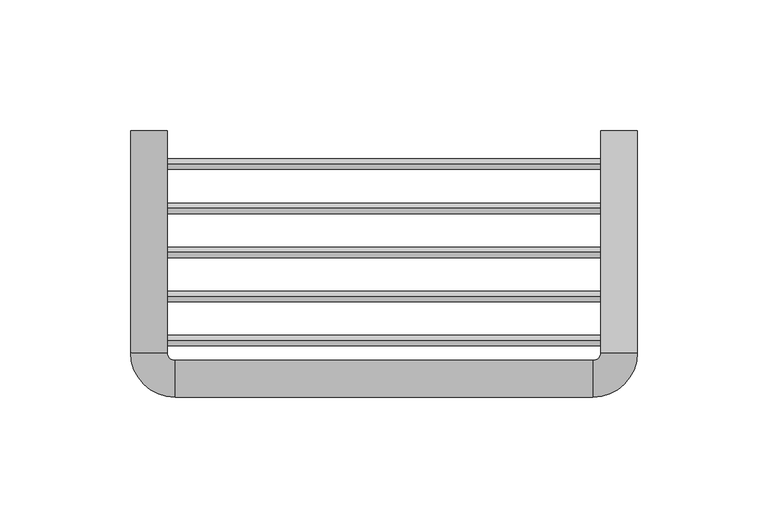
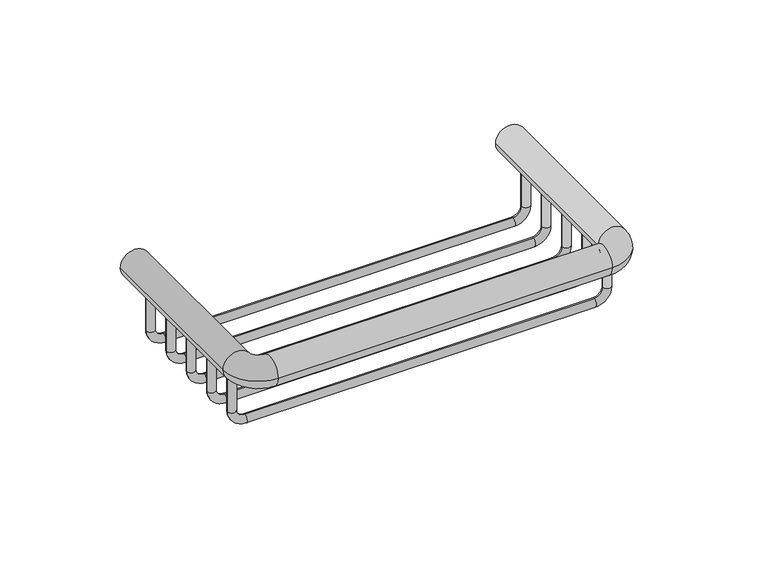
"""IFC4 building model written with IfcOpenShell, lengths in millimetres: flow terminal geometry, jabonera rejilla : jabonera rejilla."""

from ifc_helpers import new_model, si_unit, point, frame, origin, place, context, project, spatial, circle_curve, ellipse_curve, trimmed, source, transform, mapped, element, save
from ifc_brep_helpers import plane_surface, cylinder_surface, revolved_surface, advanced_brep


def flow_terminal_72b990a2(model_context):
    return source(origin(), model_context, "Body", "AdvancedBrep", [
        advanced_brep(
        [(-92.0, -80.3848902, -7.0), (-88.0, -80.3848902, -7.0), (-92.0, -80.3848902, -25.787739), (-88.0, -80.3848902, -25.787739), (-83.787739, -80.3848902, -30.0), (-83.787739, -80.3848902, -34.0), (83.787739, -80.3848902, -34.0), (83.787739, -80.3848902, -30.0), (88.0, -80.3848902, -25.787739), (92.0, -80.3848902, -25.787739), (92.0, -80.3848902, -7.0), (88.0, -80.3848902, -7.0)],
        [
            (0, 1, circle_curve(frame((-90.0, -80.3848902, -7.0), z_axis=(0.0, 0.0, 1.0), x_axis=(1.0, 0.0, 0.0)), 2.0)),
            (1, 0, circle_curve(frame((-90.0, -80.3848902, -7.0), z_axis=(0.0, 0.0, 1.0), x_axis=(1.0, 0.0, 0.0)), 2.0)),
            (0, 2),
            (2, 3, circle_curve(frame((-90.0, -80.3848902, -25.787739), z_axis=(0.0, 0.0, 1.0), x_axis=(1.0, 0.0, 0.0)), 2.0)),
            (3, 1),
            (3, 2, circle_curve(frame((-90.0, -80.3848902, -25.787739), z_axis=(0.0, 0.0, 1.0), x_axis=(1.0, 0.0, 0.0)), 2.0)),
            (4, 3, circle_curve(frame((-83.787739, -80.3848902, -25.787739), z_axis=(0.0, 1.0, 0.0), x_axis=(-1.0, 0.0, 0.0)), 4.212261)),
            (2, 5, circle_curve(frame((-83.787739, -80.3848902, -25.787739), z_axis=(0.0, -1.0, 0.0), x_axis=(-1.0, 0.0, 0.0)), 8.212261)),
            (5, 4, circle_curve(frame((-83.787739, -80.3848902, -32.0), z_axis=(-1.0, 0.0, 0.0), x_axis=(0.0, 0.0, 1.0)), 2.0)),
            (4, 5, circle_curve(frame((-83.787739, -80.3848902, -32.0), z_axis=(-1.0, 0.0, 0.0), x_axis=(0.0, 0.0, 1.0)), 2.0)),
            (5, 6),
            (6, 7, circle_curve(frame((83.787739, -80.3848902, -32.0), z_axis=(-1.0, 0.0, 0.0), x_axis=(0.0, 0.0, 1.0)), 2.0)),
            (7, 4),
            (7, 6, circle_curve(frame((83.787739, -80.3848902, -32.0), z_axis=(-1.0, 0.0, 0.0), x_axis=(0.0, 0.0, 1.0)), 2.0)),
            (8, 7, circle_curve(frame((83.787739, -80.3848902, -25.787739), z_axis=(0.0, 1.0, 0.0), x_axis=(0.0, 0.0, -1.0)), 4.212261)),
            (6, 9, circle_curve(frame((83.787739, -80.3848902, -25.787739), z_axis=(0.0, -1.0, 0.0), x_axis=(0.0, 0.0, -1.0)), 8.212261)),
            (9, 8, circle_curve(frame((90.0, -80.3848902, -25.787739), z_axis=(0.0, 0.0, -1.0), x_axis=(-1.0, 0.0, 0.0)), 2.0)),
            (8, 9, circle_curve(frame((90.0, -80.3848902, -25.787739), z_axis=(0.0, 0.0, -1.0), x_axis=(-1.0, 0.0, 0.0)), 2.0)),
            (10, 11, circle_curve(frame((90.0, -80.3848902, -7.0), z_axis=(0.0, 0.0, 1.0), x_axis=(-1.0, 0.0, 0.0)), 2.0)),
            (11, 10, circle_curve(frame((90.0, -80.3848902, -7.0), z_axis=(0.0, 0.0, 1.0), x_axis=(-1.0, 0.0, 0.0)), 2.0)),
            (9, 10),
            (11, 8),
        ],
        [
            plane_surface(frame((-90.0, -80.3848902, -7.0), z_axis=(0.0, 0.0, 1.0), x_axis=(0.0, -1.0, 0.0))),
            cylinder_surface(frame((-90.0, -80.3848902, -7.0), z_axis=(0.0, 0.0, 1.0), x_axis=(1.0, 0.0, 0.0)), 2.0),
            revolved_surface(trimmed(ellipse_curve(frame((-90.0, -80.3848902, -25.787739), z_axis=(0.0, 0.0, 1.0), x_axis=(1.0, 0.0, 0.0)), 2.0, 2.0), [point((-92.0, -80.3848902, -25.787739))], [point((-88.0, -80.3848902, -25.787739))], True, "CARTESIAN"), (-83.787739, -80.3848902, -25.787739), (0.0, -1.0, 0.0)),
            revolved_surface(trimmed(ellipse_curve(frame((-90.0, -80.3848902, -25.787739), z_axis=(0.0, 0.0, 1.0), x_axis=(1.0, 0.0, 0.0)), 2.0, 2.0), [point((-88.0, -80.3848902, -25.787739))], [point((-92.0, -80.3848902, -25.787739))], True, "CARTESIAN"), (-83.787739, -80.3848902, -25.787739), (0.0, -1.0, 0.0)),
            cylinder_surface(frame((-83.787739, -80.3848902, -32.0), z_axis=(-1.0, 0.0, 0.0), x_axis=(0.0, 0.0, 1.0)), 2.0),
            revolved_surface(trimmed(ellipse_curve(frame((83.787739, -80.3848902, -32.0), z_axis=(-1.0, 0.0, 0.0), x_axis=(0.0, 0.0, 1.0)), 2.0, 2.0), [point((83.787739, -80.3848902, -34.0))], [point((83.787739, -80.3848902, -30.0))], True, "CARTESIAN"), (83.787739, -80.3848902, -25.787739), (0.0, -1.0, 0.0)),
            revolved_surface(trimmed(ellipse_curve(frame((83.787739, -80.3848902, -32.0), z_axis=(-1.0, 0.0, 0.0), x_axis=(0.0, 0.0, 1.0)), 2.0, 2.0), [point((83.787739, -80.3848902, -30.0))], [point((83.787739, -80.3848902, -34.0))], True, "CARTESIAN"), (83.787739, -80.3848902, -25.787739), (0.0, -1.0, 0.0)),
            plane_surface(frame((90.0, -80.3848902, -7.0), z_axis=(0.0, 0.0, 1.0), x_axis=(0.0, -1.0, 0.0))),
            cylinder_surface(frame((90.0, -80.3848902, -25.787739), z_axis=(0.0, 0.0, -1.0), x_axis=(-1.0, 0.0, 0.0)), 2.0),
        ],
        [
            (0, [[1, 2]]),
            (1, [[-1, 3, 4, 5]]),
            (1, [[-2, -5, 6, -3]]),
            (2, [[7, -4, 8, 9]]),
            (3, [[-8, -6, -7, 10]]),
            (4, [[-9, 11, 12, 13]]),
            (4, [[-10, -13, 14, -11]]),
            (5, [[15, -12, 16, 17]]),
            (6, [[-16, -14, -15, 18]]),
            (7, [[19, 20]]),
            (8, [[-17, 21, -20, 22]]),
            (8, [[-18, -22, -19, -21]]),
        ],
    ),
        advanced_brep(
        [(-92.0, -63.5030123, -7.0), (-88.0, -63.5030123, -7.0), (-92.0, -63.5030123, -25.787739), (-88.0, -63.5030123, -25.787739), (-83.787739, -63.5030123, -30.0), (-83.787739, -63.5030123, -34.0), (83.787739, -63.5030123, -34.0), (83.787739, -63.5030123, -30.0), (88.0, -63.5030123, -25.787739), (92.0, -63.5030123, -25.787739), (92.0, -63.5030123, -7.0), (88.0, -63.5030123, -7.0)],
        [
            (0, 1, circle_curve(frame((-90.0, -63.5030123, -7.0), z_axis=(0.0, 0.0, 1.0), x_axis=(1.0, 0.0, 0.0)), 2.0)),
            (1, 0, circle_curve(frame((-90.0, -63.5030123, -7.0), z_axis=(0.0, 0.0, 1.0), x_axis=(1.0, 0.0, 0.0)), 2.0)),
            (0, 2),
            (2, 3, circle_curve(frame((-90.0, -63.5030123, -25.787739), z_axis=(0.0, 0.0, 1.0), x_axis=(1.0, 0.0, 0.0)), 2.0)),
            (3, 1),
            (3, 2, circle_curve(frame((-90.0, -63.5030123, -25.787739), z_axis=(0.0, 0.0, 1.0), x_axis=(1.0, 0.0, 0.0)), 2.0)),
            (4, 3, circle_curve(frame((-83.787739, -63.5030123, -25.787739), z_axis=(0.0, 1.0, 0.0), x_axis=(-1.0, 0.0, 0.0)), 4.212261)),
            (2, 5, circle_curve(frame((-83.787739, -63.5030123, -25.787739), z_axis=(0.0, -1.0, 0.0), x_axis=(-1.0, 0.0, 0.0)), 8.212261)),
            (5, 4, circle_curve(frame((-83.787739, -63.5030123, -32.0), z_axis=(-1.0, 0.0, 0.0), x_axis=(0.0, 0.0, 1.0)), 2.0)),
            (4, 5, circle_curve(frame((-83.787739, -63.5030123, -32.0), z_axis=(-1.0, 0.0, 0.0), x_axis=(0.0, 0.0, 1.0)), 2.0)),
            (5, 6),
            (6, 7, circle_curve(frame((83.787739, -63.5030123, -32.0), z_axis=(-1.0, 0.0, 0.0), x_axis=(0.0, 0.0, 1.0)), 2.0)),
            (7, 4),
            (7, 6, circle_curve(frame((83.787739, -63.5030123, -32.0), z_axis=(-1.0, 0.0, 0.0), x_axis=(0.0, 0.0, 1.0)), 2.0)),
            (8, 7, circle_curve(frame((83.787739, -63.5030123, -25.787739), z_axis=(0.0, 1.0, 0.0), x_axis=(0.0, 0.0, -1.0)), 4.212261)),
            (6, 9, circle_curve(frame((83.787739, -63.5030123, -25.787739), z_axis=(0.0, -1.0, 0.0), x_axis=(0.0, 0.0, -1.0)), 8.212261)),
            (9, 8, circle_curve(frame((90.0, -63.5030123, -25.787739), z_axis=(0.0, 0.0, -1.0), x_axis=(-1.0, 0.0, 0.0)), 2.0)),
            (8, 9, circle_curve(frame((90.0, -63.5030123, -25.787739), z_axis=(0.0, 0.0, -1.0), x_axis=(-1.0, 0.0, 0.0)), 2.0)),
            (10, 11, circle_curve(frame((90.0, -63.5030123, -7.0), z_axis=(0.0, 0.0, 1.0), x_axis=(-1.0, 0.0, 0.0)), 2.0)),
            (11, 10, circle_curve(frame((90.0, -63.5030123, -7.0), z_axis=(0.0, 0.0, 1.0), x_axis=(-1.0, 0.0, 0.0)), 2.0)),
            (9, 10),
            (11, 8),
        ],
        [
            plane_surface(frame((-90.0, -63.5030123, -7.0), z_axis=(0.0, 0.0, 1.0), x_axis=(0.0, -1.0, 0.0))),
            cylinder_surface(frame((-90.0, -63.5030123, -7.0), z_axis=(0.0, 0.0, 1.0), x_axis=(1.0, 0.0, 0.0)), 2.0),
            revolved_surface(trimmed(ellipse_curve(frame((-90.0, -63.5030123, -25.787739), z_axis=(0.0, 0.0, 1.0), x_axis=(1.0, 0.0, 0.0)), 2.0, 2.0), [point((-92.0, -63.5030123, -25.787739))], [point((-88.0, -63.5030123, -25.787739))], True, "CARTESIAN"), (-83.787739, -63.5030123, -25.787739), (0.0, -1.0, 0.0)),
            revolved_surface(trimmed(ellipse_curve(frame((-90.0, -63.5030123, -25.787739), z_axis=(0.0, 0.0, 1.0), x_axis=(1.0, 0.0, 0.0)), 2.0, 2.0), [point((-88.0, -63.5030123, -25.787739))], [point((-92.0, -63.5030123, -25.787739))], True, "CARTESIAN"), (-83.787739, -63.5030123, -25.787739), (0.0, -1.0, 0.0)),
            cylinder_surface(frame((-83.787739, -63.5030123, -32.0), z_axis=(-1.0, 0.0, 0.0), x_axis=(0.0, 0.0, 1.0)), 2.0),
            revolved_surface(trimmed(ellipse_curve(frame((83.787739, -63.5030123, -32.0), z_axis=(-1.0, 0.0, 0.0), x_axis=(0.0, 0.0, 1.0)), 2.0, 2.0), [point((83.787739, -63.5030123, -34.0))], [point((83.787739, -63.5030123, -30.0))], True, "CARTESIAN"), (83.787739, -63.5030123, -25.787739), (0.0, -1.0, 0.0)),
            revolved_surface(trimmed(ellipse_curve(frame((83.787739, -63.5030123, -32.0), z_axis=(-1.0, 0.0, 0.0), x_axis=(0.0, 0.0, 1.0)), 2.0, 2.0), [point((83.787739, -63.5030123, -30.0))], [point((83.787739, -63.5030123, -34.0))], True, "CARTESIAN"), (83.787739, -63.5030123, -25.787739), (0.0, -1.0, 0.0)),
            plane_surface(frame((90.0, -63.5030123, -7.0), z_axis=(0.0, 0.0, 1.0), x_axis=(0.0, -1.0, 0.0))),
            cylinder_surface(frame((90.0, -63.5030123, -25.787739), z_axis=(0.0, 0.0, -1.0), x_axis=(-1.0, 0.0, 0.0)), 2.0),
        ],
        [
            (0, [[1, 2]]),
            (1, [[-1, 3, 4, 5]]),
            (1, [[-2, -5, 6, -3]]),
            (2, [[7, -4, 8, 9]]),
            (3, [[-8, -6, -7, 10]]),
            (4, [[-9, 11, 12, 13]]),
            (4, [[-10, -13, 14, -11]]),
            (5, [[15, -12, 16, 17]]),
            (6, [[-16, -14, -15, 18]]),
            (7, [[19, 20]]),
            (8, [[-17, 21, -20, 22]]),
            (8, [[-18, -22, -19, -21]]),
        ],
    ),
        advanced_brep(
        [(-92.0, -46.6211345, -7.0), (-88.0, -46.6211345, -7.0), (-92.0, -46.6211345, -25.787739), (-88.0, -46.6211345, -25.787739), (-83.787739, -46.6211345, -30.0), (-83.787739, -46.6211345, -34.0), (83.787739, -46.6211345, -34.0), (83.787739, -46.6211345, -30.0), (88.0, -46.6211345, -25.787739), (92.0, -46.6211345, -25.787739), (92.0, -46.6211345, -7.0), (88.0, -46.6211345, -7.0)],
        [
            (0, 1, circle_curve(frame((-90.0, -46.6211345, -7.0), z_axis=(0.0, 0.0, 1.0), x_axis=(1.0, 0.0, 0.0)), 2.0)),
            (1, 0, circle_curve(frame((-90.0, -46.6211345, -7.0), z_axis=(0.0, 0.0, 1.0), x_axis=(1.0, 0.0, 0.0)), 2.0)),
            (0, 2),
            (2, 3, circle_curve(frame((-90.0, -46.6211345, -25.787739), z_axis=(0.0, 0.0, 1.0), x_axis=(1.0, 0.0, 0.0)), 2.0)),
            (3, 1),
            (3, 2, circle_curve(frame((-90.0, -46.6211345, -25.787739), z_axis=(0.0, 0.0, 1.0), x_axis=(1.0, 0.0, 0.0)), 2.0)),
            (4, 3, circle_curve(frame((-83.787739, -46.6211345, -25.787739), z_axis=(0.0, 1.0, 0.0), x_axis=(-1.0, 0.0, 0.0)), 4.212261)),
            (2, 5, circle_curve(frame((-83.787739, -46.6211345, -25.787739), z_axis=(0.0, -1.0, 0.0), x_axis=(-1.0, 0.0, 0.0)), 8.212261)),
            (5, 4, circle_curve(frame((-83.787739, -46.6211345, -32.0), z_axis=(-1.0, 0.0, 0.0), x_axis=(0.0, 0.0, 1.0)), 2.0)),
            (4, 5, circle_curve(frame((-83.787739, -46.6211345, -32.0), z_axis=(-1.0, 0.0, 0.0), x_axis=(0.0, 0.0, 1.0)), 2.0)),
            (5, 6),
            (6, 7, circle_curve(frame((83.787739, -46.6211345, -32.0), z_axis=(-1.0, 0.0, 0.0), x_axis=(0.0, 0.0, 1.0)), 2.0)),
            (7, 4),
            (7, 6, circle_curve(frame((83.787739, -46.6211345, -32.0), z_axis=(-1.0, 0.0, 0.0), x_axis=(0.0, 0.0, 1.0)), 2.0)),
            (8, 7, circle_curve(frame((83.787739, -46.6211345, -25.787739), z_axis=(0.0, 1.0, 0.0), x_axis=(0.0, 0.0, -1.0)), 4.212261)),
            (6, 9, circle_curve(frame((83.787739, -46.6211345, -25.787739), z_axis=(0.0, -1.0, 0.0), x_axis=(0.0, 0.0, -1.0)), 8.212261)),
            (9, 8, circle_curve(frame((90.0, -46.6211345, -25.787739), z_axis=(0.0, 0.0, -1.0), x_axis=(-1.0, 0.0, 0.0)), 2.0)),
            (8, 9, circle_curve(frame((90.0, -46.6211345, -25.787739), z_axis=(0.0, 0.0, -1.0), x_axis=(-1.0, 0.0, 0.0)), 2.0)),
            (10, 11, circle_curve(frame((90.0, -46.6211345, -7.0), z_axis=(0.0, 0.0, 1.0), x_axis=(-1.0, 0.0, 0.0)), 2.0)),
            (11, 10, circle_curve(frame((90.0, -46.6211345, -7.0), z_axis=(0.0, 0.0, 1.0), x_axis=(-1.0, 0.0, 0.0)), 2.0)),
            (9, 10),
            (11, 8),
        ],
        [
            plane_surface(frame((-90.0, -46.6211345, -7.0), z_axis=(0.0, 0.0, 1.0), x_axis=(0.0, -1.0, 0.0))),
            cylinder_surface(frame((-90.0, -46.6211345, -7.0), z_axis=(0.0, 0.0, 1.0), x_axis=(1.0, 0.0, 0.0)), 2.0),
            revolved_surface(trimmed(ellipse_curve(frame((-90.0, -46.6211345, -25.787739), z_axis=(0.0, 0.0, 1.0), x_axis=(1.0, 0.0, 0.0)), 2.0, 2.0), [point((-92.0, -46.6211345, -25.787739))], [point((-88.0, -46.6211345, -25.787739))], True, "CARTESIAN"), (-83.787739, -46.6211345, -25.787739), (0.0, -1.0, 0.0)),
            revolved_surface(trimmed(ellipse_curve(frame((-90.0, -46.6211345, -25.787739), z_axis=(0.0, 0.0, 1.0), x_axis=(1.0, 0.0, 0.0)), 2.0, 2.0), [point((-88.0, -46.6211345, -25.787739))], [point((-92.0, -46.6211345, -25.787739))], True, "CARTESIAN"), (-83.787739, -46.6211345, -25.787739), (0.0, -1.0, 0.0)),
            cylinder_surface(frame((-83.787739, -46.6211345, -32.0), z_axis=(-1.0, 0.0, 0.0), x_axis=(0.0, 0.0, 1.0)), 2.0),
            revolved_surface(trimmed(ellipse_curve(frame((83.787739, -46.6211345, -32.0), z_axis=(-1.0, 0.0, 0.0), x_axis=(0.0, 0.0, 1.0)), 2.0, 2.0), [point((83.787739, -46.6211345, -34.0))], [point((83.787739, -46.6211345, -30.0))], True, "CARTESIAN"), (83.787739, -46.6211345, -25.787739), (0.0, -1.0, 0.0)),
            revolved_surface(trimmed(ellipse_curve(frame((83.787739, -46.6211345, -32.0), z_axis=(-1.0, 0.0, 0.0), x_axis=(0.0, 0.0, 1.0)), 2.0, 2.0), [point((83.787739, -46.6211345, -30.0))], [point((83.787739, -46.6211345, -34.0))], True, "CARTESIAN"), (83.787739, -46.6211345, -25.787739), (0.0, -1.0, 0.0)),
            plane_surface(frame((90.0, -46.6211345, -7.0), z_axis=(0.0, 0.0, 1.0), x_axis=(0.0, -1.0, 0.0))),
            cylinder_surface(frame((90.0, -46.6211345, -25.787739), z_axis=(0.0, 0.0, -1.0), x_axis=(-1.0, 0.0, 0.0)), 2.0),
        ],
        [
            (0, [[1, 2]]),
            (1, [[-1, 3, 4, 5]]),
            (1, [[-2, -5, 6, -3]]),
            (2, [[7, -4, 8, 9]]),
            (3, [[-8, -6, -7, 10]]),
            (4, [[-9, 11, 12, 13]]),
            (4, [[-10, -13, 14, -11]]),
            (5, [[15, -12, 16, 17]]),
            (6, [[-16, -14, -15, 18]]),
            (7, [[19, 20]]),
            (8, [[-17, 21, -20, 22]]),
            (8, [[-18, -22, -19, -21]]),
        ],
    ),
        advanced_brep(
        [(-92.0, -29.7392566, -7.0), (-88.0, -29.7392566, -7.0), (-92.0, -29.7392566, -25.787739), (-88.0, -29.7392566, -25.787739), (-83.787739, -29.7392566, -30.0), (-83.787739, -29.7392566, -34.0), (83.787739, -29.7392566, -34.0), (83.787739, -29.7392566, -30.0), (88.0, -29.7392566, -25.787739), (92.0, -29.7392566, -25.787739), (92.0, -29.7392566, -7.0), (88.0, -29.7392566, -7.0)],
        [
            (0, 1, circle_curve(frame((-90.0, -29.7392566, -7.0), z_axis=(0.0, 0.0, 1.0), x_axis=(1.0, 0.0, 0.0)), 2.0)),
            (1, 0, circle_curve(frame((-90.0, -29.7392566, -7.0), z_axis=(0.0, 0.0, 1.0), x_axis=(1.0, 0.0, 0.0)), 2.0)),
            (0, 2),
            (2, 3, circle_curve(frame((-90.0, -29.7392566, -25.787739), z_axis=(0.0, 0.0, 1.0), x_axis=(1.0, 0.0, 0.0)), 2.0)),
            (3, 1),
            (3, 2, circle_curve(frame((-90.0, -29.7392566, -25.787739), z_axis=(0.0, 0.0, 1.0), x_axis=(1.0, 0.0, 0.0)), 2.0)),
            (4, 3, circle_curve(frame((-83.787739, -29.7392566, -25.787739), z_axis=(0.0, 1.0, 0.0), x_axis=(-1.0, 0.0, 0.0)), 4.212261)),
            (2, 5, circle_curve(frame((-83.787739, -29.7392566, -25.787739), z_axis=(0.0, -1.0, 0.0), x_axis=(-1.0, 0.0, 0.0)), 8.212261)),
            (5, 4, circle_curve(frame((-83.787739, -29.7392566, -32.0), z_axis=(-1.0, 0.0, 0.0), x_axis=(0.0, 0.0, 1.0)), 2.0)),
            (4, 5, circle_curve(frame((-83.787739, -29.7392566, -32.0), z_axis=(-1.0, 0.0, 0.0), x_axis=(0.0, 0.0, 1.0)), 2.0)),
            (5, 6),
            (6, 7, circle_curve(frame((83.787739, -29.7392566, -32.0), z_axis=(-1.0, 0.0, 0.0), x_axis=(0.0, 0.0, 1.0)), 2.0)),
            (7, 4),
            (7, 6, circle_curve(frame((83.787739, -29.7392566, -32.0), z_axis=(-1.0, 0.0, 0.0), x_axis=(0.0, 0.0, 1.0)), 2.0)),
            (8, 7, circle_curve(frame((83.787739, -29.7392566, -25.787739), z_axis=(0.0, 1.0, 0.0), x_axis=(0.0, 0.0, -1.0)), 4.212261)),
            (6, 9, circle_curve(frame((83.787739, -29.7392566, -25.787739), z_axis=(0.0, -1.0, 0.0), x_axis=(0.0, 0.0, -1.0)), 8.212261)),
            (9, 8, circle_curve(frame((90.0, -29.7392566, -25.787739), z_axis=(0.0, 0.0, -1.0), x_axis=(-1.0, 0.0, 0.0)), 2.0)),
            (8, 9, circle_curve(frame((90.0, -29.7392566, -25.787739), z_axis=(0.0, 0.0, -1.0), x_axis=(-1.0, 0.0, 0.0)), 2.0)),
            (10, 11, circle_curve(frame((90.0, -29.7392566, -7.0), z_axis=(0.0, 0.0, 1.0), x_axis=(-1.0, 0.0, 0.0)), 2.0)),
            (11, 10, circle_curve(frame((90.0, -29.7392566, -7.0), z_axis=(0.0, 0.0, 1.0), x_axis=(-1.0, 0.0, 0.0)), 2.0)),
            (9, 10),
            (11, 8),
        ],
        [
            plane_surface(frame((-90.0, -29.7392566, -7.0), z_axis=(0.0, 0.0, 1.0), x_axis=(0.0, -1.0, 0.0))),
            cylinder_surface(frame((-90.0, -29.7392566, -7.0), z_axis=(0.0, 0.0, 1.0), x_axis=(1.0, 0.0, 0.0)), 2.0),
            revolved_surface(trimmed(ellipse_curve(frame((-90.0, -29.7392566, -25.787739), z_axis=(0.0, 0.0, 1.0), x_axis=(1.0, 0.0, 0.0)), 2.0, 2.0), [point((-92.0, -29.7392566, -25.787739))], [point((-88.0, -29.7392566, -25.787739))], True, "CARTESIAN"), (-83.787739, -29.7392566, -25.787739), (0.0, -1.0, 0.0)),
            revolved_surface(trimmed(ellipse_curve(frame((-90.0, -29.7392566, -25.787739), z_axis=(0.0, 0.0, 1.0), x_axis=(1.0, 0.0, 0.0)), 2.0, 2.0), [point((-88.0, -29.7392566, -25.787739))], [point((-92.0, -29.7392566, -25.787739))], True, "CARTESIAN"), (-83.787739, -29.7392566, -25.787739), (0.0, -1.0, 0.0)),
            cylinder_surface(frame((-83.787739, -29.7392566, -32.0), z_axis=(-1.0, 0.0, 0.0), x_axis=(0.0, 0.0, 1.0)), 2.0),
            revolved_surface(trimmed(ellipse_curve(frame((83.787739, -29.7392566, -32.0), z_axis=(-1.0, 0.0, 0.0), x_axis=(0.0, 0.0, 1.0)), 2.0, 2.0), [point((83.787739, -29.7392566, -34.0))], [point((83.787739, -29.7392566, -30.0))], True, "CARTESIAN"), (83.787739, -29.7392566, -25.787739), (0.0, -1.0, 0.0)),
            revolved_surface(trimmed(ellipse_curve(frame((83.787739, -29.7392566, -32.0), z_axis=(-1.0, 0.0, 0.0), x_axis=(0.0, 0.0, 1.0)), 2.0, 2.0), [point((83.787739, -29.7392566, -30.0))], [point((83.787739, -29.7392566, -34.0))], True, "CARTESIAN"), (83.787739, -29.7392566, -25.787739), (0.0, -1.0, 0.0)),
            plane_surface(frame((90.0, -29.7392566, -7.0), z_axis=(0.0, 0.0, 1.0), x_axis=(0.0, -1.0, 0.0))),
            cylinder_surface(frame((90.0, -29.7392566, -25.787739), z_axis=(0.0, 0.0, -1.0), x_axis=(-1.0, 0.0, 0.0)), 2.0),
        ],
        [
            (0, [[1, 2]]),
            (1, [[-1, 3, 4, 5]]),
            (1, [[-2, -5, 6, -3]]),
            (2, [[7, -4, 8, 9]]),
            (3, [[-8, -6, -7, 10]]),
            (4, [[-9, 11, 12, 13]]),
            (4, [[-10, -13, 14, -11]]),
            (5, [[15, -12, 16, 17]]),
            (6, [[-16, -14, -15, 18]]),
            (7, [[19, 20]]),
            (8, [[-17, 21, -20, 22]]),
            (8, [[-18, -22, -19, -21]]),
        ],
    ),
        advanced_brep(
        [(-92.0, -12.8573787, -7.0), (-88.0, -12.8573787, -7.0), (-92.0, -12.8573787, -25.787739), (-88.0, -12.8573787, -25.787739), (-83.787739, -12.8573787, -30.0), (-83.787739, -12.8573787, -34.0), (83.787739, -12.8573787, -34.0), (83.787739, -12.8573787, -30.0), (88.0, -12.8573787, -25.787739), (92.0, -12.8573787, -25.787739), (92.0, -12.8573787, -7.0), (88.0, -12.8573787, -7.0)],
        [
            (0, 1, circle_curve(frame((-90.0, -12.8573787, -7.0), z_axis=(0.0, 0.0, 1.0), x_axis=(1.0, 0.0, 0.0)), 2.0)),
            (1, 0, circle_curve(frame((-90.0, -12.8573787, -7.0), z_axis=(0.0, 0.0, 1.0), x_axis=(1.0, 0.0, 0.0)), 2.0)),
            (0, 2),
            (2, 3, circle_curve(frame((-90.0, -12.8573787, -25.787739), z_axis=(0.0, 0.0, 1.0), x_axis=(1.0, 0.0, 0.0)), 2.0)),
            (3, 1),
            (3, 2, circle_curve(frame((-90.0, -12.8573787, -25.787739), z_axis=(0.0, 0.0, 1.0), x_axis=(1.0, 0.0, 0.0)), 2.0)),
            (4, 3, circle_curve(frame((-83.787739, -12.8573787, -25.787739), z_axis=(0.0, 1.0, 0.0), x_axis=(-1.0, 0.0, 0.0)), 4.212261)),
            (2, 5, circle_curve(frame((-83.787739, -12.8573787, -25.787739), z_axis=(0.0, -1.0, 0.0), x_axis=(-1.0, 0.0, 0.0)), 8.212261)),
            (5, 4, circle_curve(frame((-83.787739, -12.8573787, -32.0), z_axis=(-1.0, 0.0, 0.0), x_axis=(0.0, 0.0, 1.0)), 2.0)),
            (4, 5, circle_curve(frame((-83.787739, -12.8573787, -32.0), z_axis=(-1.0, 0.0, 0.0), x_axis=(0.0, 0.0, 1.0)), 2.0)),
            (5, 6),
            (6, 7, circle_curve(frame((83.787739, -12.8573787, -32.0), z_axis=(-1.0, 0.0, 0.0), x_axis=(0.0, 0.0, 1.0)), 2.0)),
            (7, 4),
            (7, 6, circle_curve(frame((83.787739, -12.8573787, -32.0), z_axis=(-1.0, 0.0, 0.0), x_axis=(0.0, 0.0, 1.0)), 2.0)),
            (8, 7, circle_curve(frame((83.787739, -12.8573787, -25.787739), z_axis=(0.0, 1.0, 0.0), x_axis=(0.0, 0.0, -1.0)), 4.212261)),
            (6, 9, circle_curve(frame((83.787739, -12.8573787, -25.787739), z_axis=(0.0, -1.0, 0.0), x_axis=(0.0, 0.0, -1.0)), 8.212261)),
            (9, 8, circle_curve(frame((90.0, -12.8573787, -25.787739), z_axis=(0.0, 0.0, -1.0), x_axis=(-1.0, 0.0, 0.0)), 2.0)),
            (8, 9, circle_curve(frame((90.0, -12.8573787, -25.787739), z_axis=(0.0, 0.0, -1.0), x_axis=(-1.0, 0.0, 0.0)), 2.0)),
            (10, 11, circle_curve(frame((90.0, -12.8573787, -7.0), z_axis=(0.0, 0.0, 1.0), x_axis=(-1.0, 0.0, 0.0)), 2.0)),
            (11, 10, circle_curve(frame((90.0, -12.8573787, -7.0), z_axis=(0.0, 0.0, 1.0), x_axis=(-1.0, 0.0, 0.0)), 2.0)),
            (9, 10),
            (11, 8),
        ],
        [
            plane_surface(frame((-90.0, -12.8573787, -7.0), z_axis=(0.0, 0.0, 1.0), x_axis=(0.0, -1.0, 0.0))),
            cylinder_surface(frame((-90.0, -12.8573787, -7.0), z_axis=(0.0, 0.0, 1.0), x_axis=(1.0, 0.0, 0.0)), 2.0),
            revolved_surface(trimmed(ellipse_curve(frame((-90.0, -12.8573787, -25.787739), z_axis=(0.0, 0.0, 1.0), x_axis=(1.0, 0.0, 0.0)), 2.0, 2.0), [point((-92.0, -12.8573787, -25.787739))], [point((-88.0, -12.8573787, -25.787739))], True, "CARTESIAN"), (-83.787739, -12.8573787, -25.787739), (0.0, -1.0, 0.0)),
            revolved_surface(trimmed(ellipse_curve(frame((-90.0, -12.8573787, -25.787739), z_axis=(0.0, 0.0, 1.0), x_axis=(1.0, 0.0, 0.0)), 2.0, 2.0), [point((-88.0, -12.8573787, -25.787739))], [point((-92.0, -12.8573787, -25.787739))], True, "CARTESIAN"), (-83.787739, -12.8573787, -25.787739), (0.0, -1.0, 0.0)),
            cylinder_surface(frame((-83.787739, -12.8573787, -32.0), z_axis=(-1.0, 0.0, 0.0), x_axis=(0.0, 0.0, 1.0)), 2.0),
            revolved_surface(trimmed(ellipse_curve(frame((83.787739, -12.8573787, -32.0), z_axis=(-1.0, 0.0, 0.0), x_axis=(0.0, 0.0, 1.0)), 2.0, 2.0), [point((83.787739, -12.8573787, -34.0))], [point((83.787739, -12.8573787, -30.0))], True, "CARTESIAN"), (83.787739, -12.8573787, -25.787739), (0.0, -1.0, 0.0)),
            revolved_surface(trimmed(ellipse_curve(frame((83.787739, -12.8573787, -32.0), z_axis=(-1.0, 0.0, 0.0), x_axis=(0.0, 0.0, 1.0)), 2.0, 2.0), [point((83.787739, -12.8573787, -30.0))], [point((83.787739, -12.8573787, -34.0))], True, "CARTESIAN"), (83.787739, -12.8573787, -25.787739), (0.0, -1.0, 0.0)),
            plane_surface(frame((90.0, -12.8573787, -7.0), z_axis=(0.0, 0.0, 1.0), x_axis=(0.0, -1.0, 0.0))),
            cylinder_surface(frame((90.0, -12.8573787, -25.787739), z_axis=(0.0, 0.0, -1.0), x_axis=(-1.0, 0.0, 0.0)), 2.0),
        ],
        [
            (0, [[1, 2]]),
            (1, [[-1, 3, 4, 5]]),
            (1, [[-2, -5, 6, -3]]),
            (2, [[7, -4, 8, 9]]),
            (3, [[-8, -6, -7, 10]]),
            (4, [[-9, 11, 12, 13]]),
            (4, [[-10, -13, 14, -11]]),
            (5, [[15, -12, 16, 17]]),
            (6, [[-16, -14, -15, 18]]),
            (7, [[19, 20]]),
            (8, [[-17, 21, -20, 22]]),
            (8, [[-18, -22, -19, -21]]),
        ],
    ),
        advanced_brep(
        [(-83.0, 0.0, 0.0), (-97.0, 0.0, 0.0), (-83.0, -85.0, 0.0), (-97.0, -85.0, 0.0), (-80.0, -102.0, 0.0), (-80.0, -88.0, 0.0), (80.0, -88.0, 0.0), (80.0, -102.0, 0.0), (83.0, 0.0, 0.0), (97.0, 0.0, 0.0), (97.0, -85.0, 0.0), (83.0, -85.0, 0.0)],
        [
            (0, 1, circle_curve(frame((-90.0, 0.0, 0.0), z_axis=(0.0, 1.0, 0.0), x_axis=(-1.0, 0.0, 0.0)), 7.0)),
            (1, 0, circle_curve(frame((-90.0, 0.0, 0.0), z_axis=(0.0, 1.0, 0.0), x_axis=(-1.0, 0.0, 0.0)), 7.0)),
            (0, 2),
            (2, 3, circle_curve(frame((-90.0, -85.0, 0.0), z_axis=(0.0, 1.0, 0.0), x_axis=(-1.0, 0.0, 0.0)), 7.0)),
            (3, 1),
            (3, 2, circle_curve(frame((-90.0, -85.0, 0.0), z_axis=(0.0, 1.0, 0.0), x_axis=(-1.0, 0.0, 0.0)), 7.0)),
            (4, 5, circle_curve(frame((-80.0, -95.0, 0.0), z_axis=(1.0, 0.0, 0.0), x_axis=(0.0, -1.0, 0.0)), 7.0)),
            (5, 6),
            (6, 7, circle_curve(frame((80.0, -95.0, 0.0), z_axis=(-1.0, 0.0, 0.0), x_axis=(0.0, -1.0, 0.0)), 7.0)),
            (7, 4),
            (5, 4, circle_curve(frame((-80.0, -95.0, 0.0), z_axis=(1.0, 0.0, 0.0), x_axis=(0.0, -1.0, 0.0)), 7.0)),
            (7, 6, circle_curve(frame((80.0, -95.0, 0.0), z_axis=(-1.0, 0.0, 0.0), x_axis=(0.0, -1.0, 0.0)), 7.0)),
            (8, 9, circle_curve(frame((90.0, 0.0, 0.0), z_axis=(0.0, 1.0, 0.0), x_axis=(1.0, 0.0, 0.0)), 7.0)),
            (9, 8, circle_curve(frame((90.0, 0.0, 0.0), z_axis=(0.0, 1.0, 0.0), x_axis=(1.0, 0.0, 0.0)), 7.0)),
            (10, 11, circle_curve(frame((90.0, -85.0, 0.0), z_axis=(0.0, 1.0, 0.0), x_axis=(1.0, 0.0, 0.0)), 7.0)),
            (11, 8),
            (9, 10),
            (11, 10, circle_curve(frame((90.0, -85.0, 0.0), z_axis=(0.0, 1.0, 0.0), x_axis=(1.0, 0.0, 0.0)), 7.0)),
            (4, 3, circle_curve(frame((-80.0, -85.0, 0.0), z_axis=(0.0, 0.0, -1.0), x_axis=(-1.0, 0.0, 0.0)), 17.0)),
            (2, 5, circle_curve(frame((-80.0, -85.0, 0.0), z_axis=(0.0, 0.0, 1.0), x_axis=(-1.0, 0.0, 0.0)), 3.0)),
            (10, 7, circle_curve(frame((80.0, -85.0, 0.0), z_axis=(0.0, 0.0, -1.0), x_axis=(0.0, -1.0, 0.0)), 17.0)),
            (6, 11, circle_curve(frame((80.0, -85.0, 0.0), z_axis=(0.0, 0.0, 1.0), x_axis=(0.0, -1.0, 0.0)), 3.0)),
        ],
        [
            plane_surface(frame((-90.0, 0.0, 0.0), z_axis=(0.0, 1.0, 0.0), x_axis=(0.0, 0.0, 1.0))),
            cylinder_surface(frame((-90.0, 0.0, 0.0), z_axis=(0.0, 1.0, 0.0), x_axis=(-1.0, 0.0, 0.0)), 7.0),
            cylinder_surface(frame((-80.0, -95.0, 0.0), z_axis=(-1.0, 0.0, 0.0), x_axis=(0.0, -1.0, 0.0)), 7.0),
            plane_surface(frame((90.0, 0.0, 0.0), z_axis=(0.0, 1.0, 0.0), x_axis=(0.0, 0.0, 1.0))),
            cylinder_surface(frame((90.0, -85.0, 0.0), z_axis=(0.0, -1.0, 0.0), x_axis=(1.0, 0.0, 0.0)), 7.0),
            revolved_surface(trimmed(ellipse_curve(frame((-90.0, -85.0, 0.0), z_axis=(0.0, 1.0, 0.0), x_axis=(-1.0, 0.0, 0.0)), 7.0, 7.0), [point((-83.0, -85.0, 0.0))], [point((-97.0, -85.0, 0.0))], True, "CARTESIAN"), (-80.0, -85.0, 0.0), (0.0, 0.0, 1.0)),
            revolved_surface(trimmed(ellipse_curve(frame((-90.0, -85.0, 0.0), z_axis=(0.0, 1.0, 0.0), x_axis=(-1.0, 0.0, 0.0)), 7.0, 7.0), [point((-97.0, -85.0, 0.0))], [point((-83.0, -85.0, 0.0))], True, "CARTESIAN"), (-80.0, -85.0, 0.0), (0.0, 0.0, 1.0)),
            revolved_surface(trimmed(ellipse_curve(frame((80.0, -95.0, 0.0), z_axis=(-1.0, 0.0, 0.0), x_axis=(0.0, -1.0, 0.0)), 7.0, 7.0), [point((80.0, -88.0, 0.0))], [point((80.0, -102.0, 0.0))], True, "CARTESIAN"), (80.0, -85.0, 0.0), (0.0, 0.0, 1.0)),
            revolved_surface(trimmed(ellipse_curve(frame((80.0, -95.0, 0.0), z_axis=(-1.0, 0.0, 0.0), x_axis=(0.0, -1.0, 0.0)), 7.0, 7.0), [point((80.0, -102.0, 0.0))], [point((80.0, -88.0, 0.0))], True, "CARTESIAN"), (80.0, -85.0, 0.0), (0.0, 0.0, 1.0)),
        ],
        [
            (0, [[1, 2]]),
            (1, [[-1, 3, 4, 5]]),
            (1, [[-2, -5, 6, -3]]),
            (2, [[7, 8, 9, 10]]),
            (2, [[11, -10, 12, -8]]),
            (3, [[13, 14]]),
            (4, [[15, 16, -14, 17]]),
            (4, [[18, -17, -13, -16]]),
            (5, [[19, -4, 20, -7]]),
            (6, [[-20, -6, -19, -11]]),
            (7, [[21, -9, 22, -15]]),
            (8, [[-22, -12, -21, -18]]),
        ],
    ),
    ])


if __name__ == "__main__":
    model = new_model("IFC4")
    model_context = context("Model", 3, world=origin())
    ifc_project = project(units=[si_unit("LENGTHUNIT", "METRE", prefix="MILLI")], contexts=[model_context])
    site = spatial("IfcSite", under=ifc_project)
    building = spatial("IfcBuilding", under=site)
    placement = place(None, origin())
    flow_terminal_shape = flow_terminal_72b990a2(model_context)
    element("IfcFlowTerminal", 1, ObjectType="jabonera rejilla : jabonera rejilla", at=placement, inside=building, context=model_context, shape_type="MappedRepresentation", body=[
        mapped(flow_terminal_shape, transform((0.0, 0.0, 0.0), x_axis=(1.0, 0.0, 0.0), y_axis=(0.0, 1.0, 0.0), z_axis=(0.0, 0.0, 1.0))),
    ])
    save(model, "model.ifc")
